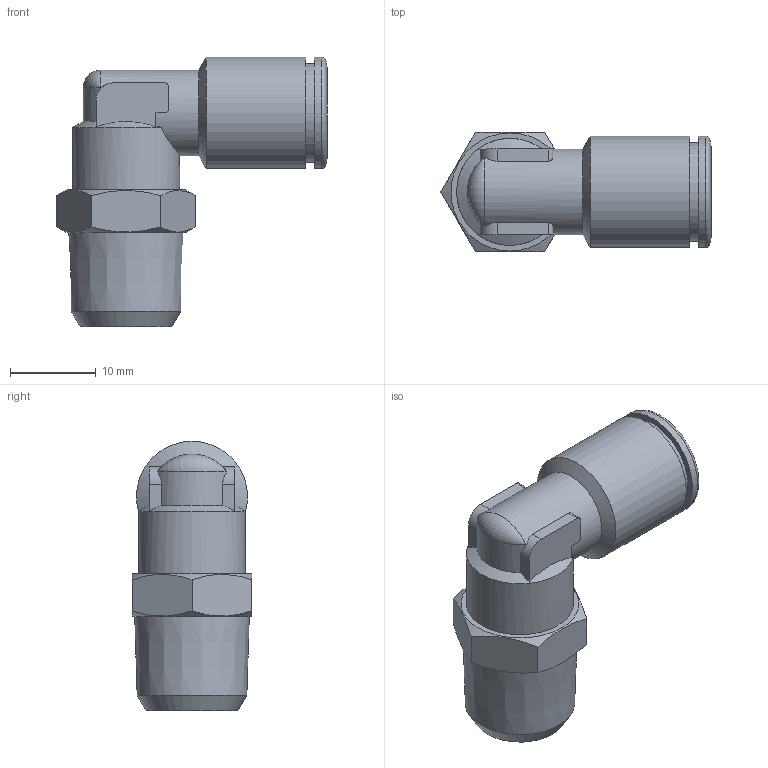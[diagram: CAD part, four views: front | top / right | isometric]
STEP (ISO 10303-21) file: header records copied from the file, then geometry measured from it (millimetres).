
FILE_DESCRIPTION(/* description */ (''),/* implementation_level */ '2;1');
FILE_NAME(/* name */ '202256-ES_STX022K_8_R14_16.06.16',/* time_stamp */ '2016-06-16T12:21:03+02:00',/* author */ (''),/* organization */ (''),/* preprocessor_version */ 'ST-DEVELOPER v14',/* originating_system */ 'HiCAD 2013 1802.4 Build 509',/* authorisation */ '');
FILE_SCHEMA (('AUTOMOTIVE_DESIGN { 1 0 10303 214 1 1 1 1 }'));
Length unit declared in the file: millimetre
Products named in the file (4): Root; 214626-N2; R202205-ES-N1-N2; DR8-1_NEU
Assembly tree (3 placements, depth 2):
  Root
    214626-N2
    R202205-ES-N1-N2
    DR8-1_NEU
Bounding box: 31.58 x 14 x 31.5 mm (x, y, z)
Volume: 3838.4 mm3; surface area: 4387.7 mm2
Topology: 3 solids, 3 shells, 74 faces, 168 edges, 105 vertices
Faces by surface type: plane 28, cylinder 24, cone 20, torus 2
Full cylindrical faces by diameter (mm): 5.5 x1, 6 x1, 7 x1, 8.1 x1, 8.2 x1, 9 x2, 10 x1, 10.1 x3, 11 x1, 11.5 x1, 11.6 x1, 12.5 x1, 13 x2
Entity records: 4451 total; most frequent: CARTESIAN_POINT 1604, DIRECTION 350, PRESENTATION_STYLE_ASSIGNMENT 253, OVER_RIDING_STYLED_ITEM 250, COLOUR_RGB 244, DRAUGHTING_PRE_DEFINED_CURVE_FONT 242, CURVE_STYLE 242, ORIENTED_EDGE 242
